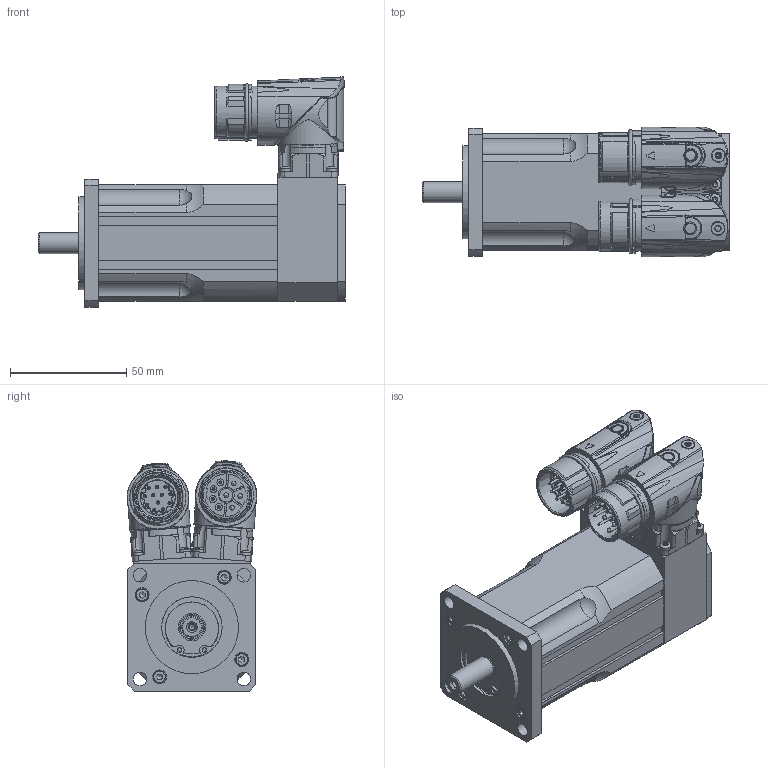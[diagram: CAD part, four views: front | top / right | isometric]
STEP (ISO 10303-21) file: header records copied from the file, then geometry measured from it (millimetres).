
FILE_DESCRIPTION(/* description */ (''),/* implementation_level */ '2;1');
FILE_NAME(/* name */ 'MR6328-Ux-Nxx-G01-A0D-M0-P0.stp',/* time_stamp */ '2018-05-17T12:50:54+02:00',/* author */ (''),/* organization */ (''),/* preprocessor_version */ 'ST-DEVELOPER v17',/* originating_system */ 'Autodesk Inventor 2018',/* authorisation */ '');
FILE_SCHEMA (('AUTOMOTIVE_DESIGN { 1 0 10303 214 3 1 1 }'));
Products named in the file (9): MR6328_Ux_Nxx_G01_A0D_M0_P0; MR6328_G01_A0D_M0_front; MR6328_G01_A0D_M0_P0_rear; BED_0201_8-polig, Stift; Basis 2; Basis 11; AED_0201_12-polig, Stift; 124888; 127323
Assembly tree (8 placements, depth 3):
  MR6328_Ux_Nxx_G01_A0D_M0_P0
    MR6328_G01_A0D_M0_front
    MR6328_G01_A0D_M0_P0_rear
    BED_0201_8-polig, Stift
      Basis 2
      Basis 11
    AED_0201_12-polig, Stift
      124888
      127323
Bounding box: 132.2 x 55.85 x 98.91 mm (x, y, z)
Volume: 332193.2 mm3; surface area: 60736.9 mm2
Topology: 6 solids, 11 shells, 1804 faces, 4861 edges, 3128 vertices
Faces by surface type: cylinder 790, plane 527, bspline 256, cone 113, torus 80, sphere 38
Full cylindrical faces by diameter (mm): 1 x16, 1.18 x12, 1.2 x12, 1.3 x4, 2 x6, 2.013 x2, 2.208 x8, 2.4 x8, 2.459 x1, 2.5 x8, 2.7 x4, 2.8 x4, 3 x9, 3.1 x4, 3.2 x6, 4.5 x2, 5 x4, 5.5 x6, 5.6 x4, 5.8 x5, 5.9 x2, 6 x4, 6.5 x4, 6.8 x1, 7.53 x1, 9 x1, 9.5 x1, 10 x3, 15.2 x1, 17.4 x1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
Entity records: 72027 total; most frequent: CARTESIAN_POINT 24956, ORIENTED_EDGE 9626, DIRECTION 9462, EDGE_CURVE 4813, AXIS2_PLACEMENT_3D 3913, VERTEX_POINT 3128, CIRCLE 2134, EDGE_LOOP 2007
